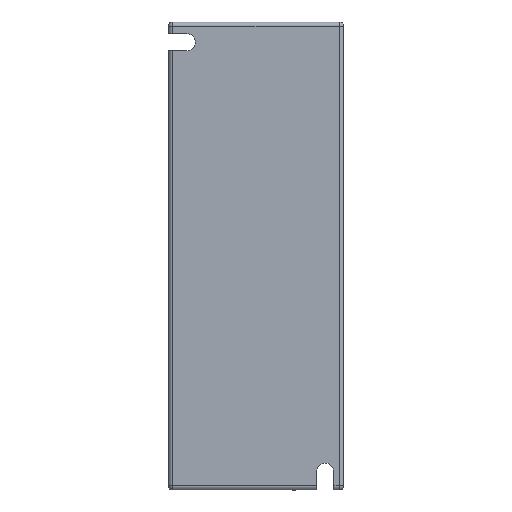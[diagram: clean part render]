
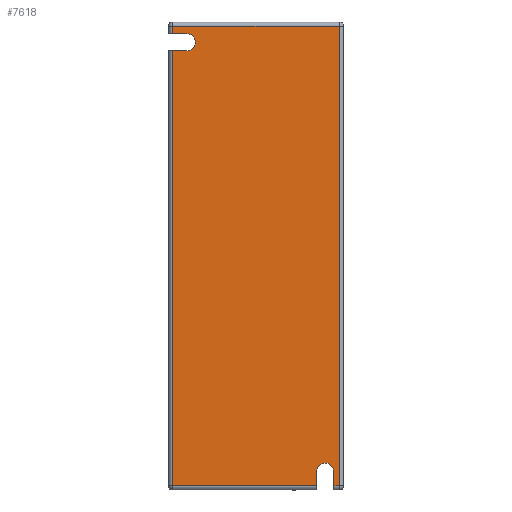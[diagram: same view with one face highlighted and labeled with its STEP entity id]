
A CAD part, front view. The second image highlights one B-rep face of the part: STEP entity #7618.
In plain terms, the highlighted planar face has unit normal (0, -1, 0).
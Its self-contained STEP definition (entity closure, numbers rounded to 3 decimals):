
#75=DIRECTION('',(-1.,0.,0.));
#76=VECTOR('',#75,3.5);
#77=CARTESIAN_POINT('',(-17.,0.,54.6));
#78=LINE('',#77,#76);
#83=DIRECTION('',(0.,0.,-1.));
#84=VECTOR('',#83,1.9);
#85=CARTESIAN_POINT('',(-20.5,0.,56.5));
#86=LINE('',#85,#84);
#90=DIRECTION('',(-1.,0.,0.));
#91=VECTOR('',#90,41.);
#92=CARTESIAN_POINT('',(20.5,0.,56.5));
#93=LINE('',#92,#91);
#97=DIRECTION('',(0.,0.,1.));
#98=VECTOR('',#97,113.);
#99=CARTESIAN_POINT('',(20.5,0.,-56.5));
#100=LINE('',#99,#98);
#104=DIRECTION('',(1.,0.,0.));
#105=VECTOR('',#104,1.4);
#106=CARTESIAN_POINT('',(19.1,0.,-56.5));
#107=LINE('',#106,#105);
#111=DIRECTION('',(0.,0.,1.));
#112=VECTOR('',#111,3.5);
#113=CARTESIAN_POINT('',(19.1,0.,-56.5));
#114=LINE('',#113,#112);
#118=CARTESIAN_POINT('',(17.,0.,-53.));
#119=DIRECTION('',(0.,1.,0.));
#120=DIRECTION('',(-1.,0.,0.));
#121=AXIS2_PLACEMENT_3D('',#118,#119,#120);
#126=DIRECTION('',(0.,0.,1.));
#127=VECTOR('',#126,3.5);
#128=CARTESIAN_POINT('',(14.9,0.,-56.5));
#129=LINE('',#128,#127);
#133=DIRECTION('',(1.,0.,0.));
#134=VECTOR('',#133,35.4);
#135=CARTESIAN_POINT('',(-20.5,0.,-56.5));
#136=LINE('',#135,#134);
#140=DIRECTION('',(0.,0.,-1.));
#141=VECTOR('',#140,106.9);
#142=CARTESIAN_POINT('',(-20.5,0.,50.4));
#143=LINE('',#142,#141);
#147=DIRECTION('',(-1.,0.,0.));
#148=VECTOR('',#147,3.5);
#149=CARTESIAN_POINT('',(-17.,0.,50.4));
#150=LINE('',#149,#148);
#154=CARTESIAN_POINT('',(-17.,0.,52.5));
#155=DIRECTION('',(0.,1.,0.));
#156=DIRECTION('',(0.,0.,1.));
#157=AXIS2_PLACEMENT_3D('',#154,#155,#156);
#6482=CARTESIAN_POINT('',(20.5,0.,56.5));
#6483=CARTESIAN_POINT('',(-20.5,0.,56.5));
#6484=VERTEX_POINT('',#6482);
#6485=VERTEX_POINT('',#6483);
#6486=CARTESIAN_POINT('',(20.5,0.,-56.5));
#6487=VERTEX_POINT('',#6486);
#6494=CARTESIAN_POINT('',(-17.,0.,54.6));
#6495=CARTESIAN_POINT('',(-20.5,0.,54.6));
#6496=VERTEX_POINT('',#6494);
#6497=VERTEX_POINT('',#6495);
#6498=CARTESIAN_POINT('',(-17.,0.,50.4));
#6499=CARTESIAN_POINT('',(-20.5,0.,50.4));
#6500=VERTEX_POINT('',#6498);
#6501=VERTEX_POINT('',#6499);
#6502=CARTESIAN_POINT('',(14.9,0.,-56.5));
#6503=CARTESIAN_POINT('',(14.9,0.,-53.));
#6504=VERTEX_POINT('',#6502);
#6505=VERTEX_POINT('',#6503);
#6506=CARTESIAN_POINT('',(19.1,0.,-53.));
#6507=VERTEX_POINT('',#6506);
#6508=CARTESIAN_POINT('',(19.1,0.,-56.5));
#6509=VERTEX_POINT('',#6508);
#6534=CARTESIAN_POINT('',(-20.5,0.,-56.5));
#6535=VERTEX_POINT('',#6534);
#7587=CARTESIAN_POINT('',(0.,0.,0.));
#7588=DIRECTION('',(0.,1.,0.));
#7589=DIRECTION('',(1.,0.,0.));
#7590=AXIS2_PLACEMENT_3D('',#7587,#7588,#7589);
#7591=PLANE('',#7590);
#7593=ORIENTED_EDGE('',*,*,#7592,.T.);
#7595=ORIENTED_EDGE('',*,*,#7594,.F.);
#7597=ORIENTED_EDGE('',*,*,#7596,.F.);
#7599=ORIENTED_EDGE('',*,*,#7598,.F.);
#7601=ORIENTED_EDGE('',*,*,#7600,.F.);
#7603=ORIENTED_EDGE('',*,*,#7602,.T.);
#7605=ORIENTED_EDGE('',*,*,#7604,.F.);
#7607=ORIENTED_EDGE('',*,*,#7606,.F.);
#7609=ORIENTED_EDGE('',*,*,#7608,.F.);
#7611=ORIENTED_EDGE('',*,*,#7610,.F.);
#7613=ORIENTED_EDGE('',*,*,#7612,.F.);
#7615=ORIENTED_EDGE('',*,*,#7614,.F.);
#7616=EDGE_LOOP('',(#7593,#7595,#7597,#7599,#7601,#7603,#7605,#7607,#7609,#7611,
#7613,#7615));
#7617=FACE_OUTER_BOUND('',#7616,.F.);
#122=CIRCLE('',#121,2.1);
#158=CIRCLE('',#157,2.1);
#7592=EDGE_CURVE('',#6496,#6497,#78,.T.);
#7594=EDGE_CURVE('',#6485,#6497,#86,.T.);
#7596=EDGE_CURVE('',#6484,#6485,#93,.T.);
#7598=EDGE_CURVE('',#6487,#6484,#100,.T.);
#7600=EDGE_CURVE('',#6509,#6487,#107,.T.);
#7602=EDGE_CURVE('',#6509,#6507,#114,.T.);
#7604=EDGE_CURVE('',#6505,#6507,#122,.T.);
#7606=EDGE_CURVE('',#6504,#6505,#129,.T.);
#7608=EDGE_CURVE('',#6535,#6504,#136,.T.);
#7610=EDGE_CURVE('',#6501,#6535,#143,.T.);
#7612=EDGE_CURVE('',#6500,#6501,#150,.T.);
#7614=EDGE_CURVE('',#6496,#6500,#158,.T.);
#7618=ADVANCED_FACE('',(#7617),#7591,.F.);
